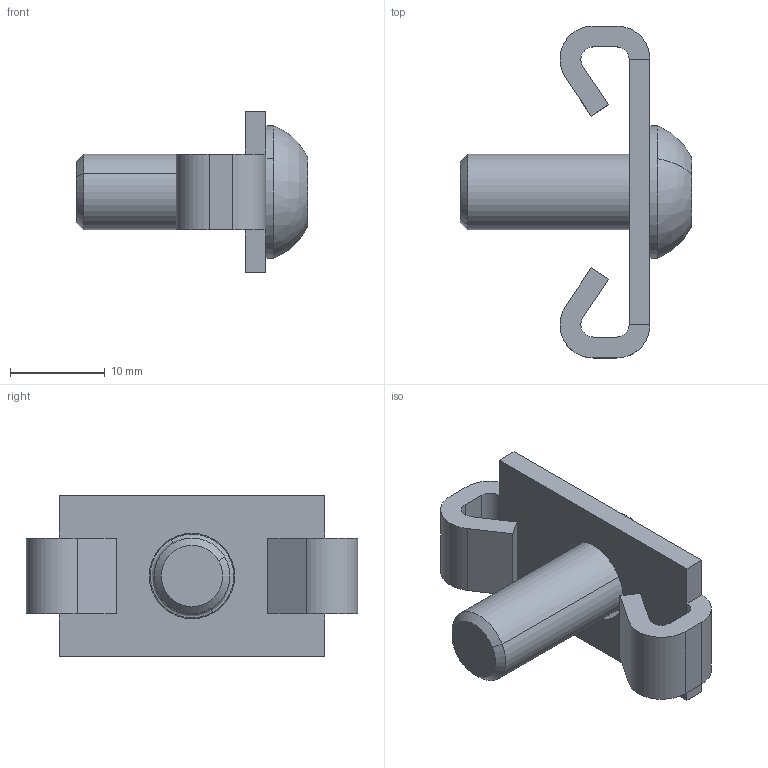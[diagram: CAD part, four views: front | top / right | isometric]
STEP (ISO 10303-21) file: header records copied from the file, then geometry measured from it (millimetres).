
FILE_DESCRIPTION (( 'STEP AP214' ), '1' );
FILE_NAME ('30002_VERSTZ.STEP', '2016-11-03T09:42:53', ( '' ), ( '' ), 'SwSTEP 2.0', 'SolidWorks 2016', '' );
FILE_SCHEMA (( 'AUTOMOTIVE_DESIGN' ));
Length unit declared in the file: millimetre
Products named in the file (1): 30002_VERSTZ
Bounding box: 24.4 x 35 x 17 mm (x, y, z)
Volume: 2926.3 mm3; surface area: 2696.5 mm2
Topology: 2 solids, 2 shells, 52 faces, 129 edges, 83 vertices
Faces by surface type: plane 32, cylinder 14, bspline 4, cone 2
Entity records: 2291 total; most frequent: CARTESIAN_POINT 440, DIRECTION 264, ORIENTED_EDGE 258, EDGE_CURVE 129, AXIS2_PLACEMENT_3D 89, LINE 86, VECTOR 86, VERTEX_POINT 83
